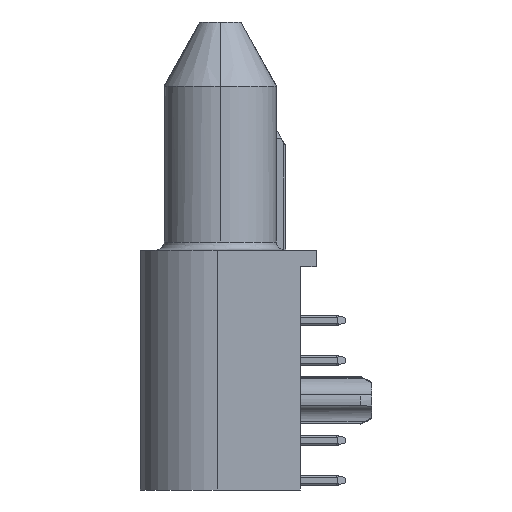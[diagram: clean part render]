
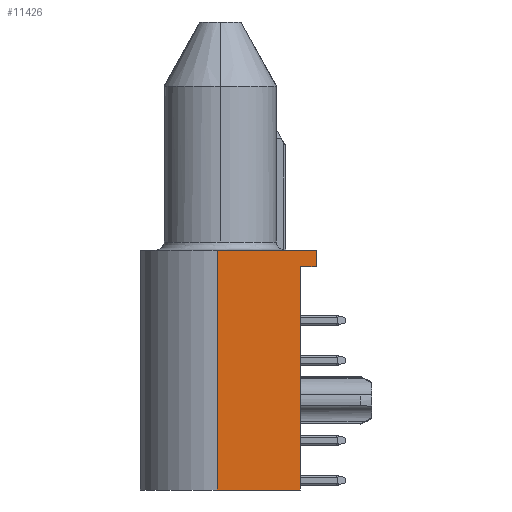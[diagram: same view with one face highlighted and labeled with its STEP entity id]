
A CAD part, left-side view. The second image highlights one B-rep face of the part: STEP entity #11426.
In plain terms, the highlighted planar face has unit normal (-1, 0, 0).
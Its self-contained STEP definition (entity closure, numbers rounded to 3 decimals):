
#4013 = FACE_OUTER_BOUND ( 'NONE', #11719, .T. ) ;
#4042 = PLANE ( 'NONE',  #4114 ) ;
#4114 = AXIS2_PLACEMENT_3D ( 'NONE', #17692, #17693, #17694 ) ;
#7624 = ORIENTED_EDGE ( 'NONE', *, *, #45672, .T. ) ;
#7626 = ORIENTED_EDGE ( 'NONE', *, *, #45905, .T. ) ;
#7628 = ORIENTED_EDGE ( 'NONE', *, *, #45903, .T. ) ;
#7630 = ORIENTED_EDGE ( 'NONE', *, *, #45896, .T. ) ;
#7631 = ORIENTED_EDGE ( 'NONE', *, *, #45658, .T. ) ;
#7633 = ORIENTED_EDGE ( 'NONE', *, *, #45900, .F. ) ;
#8007 = VERTEX_POINT ( 'NONE', #33343 ) ;
#8009 = VERTEX_POINT ( 'NONE', #33340 ) ;
#8014 = VERTEX_POINT ( 'NONE', #33330 ) ;
#8017 = VERTEX_POINT ( 'NONE', #33325 ) ;
#8169 = VERTEX_POINT ( 'NONE', #33022 ) ;
#8170 = VERTEX_POINT ( 'NONE', #33019 ) ;
#11426 = ADVANCED_FACE ( 'NONE', ( #4013 ), #4042, .T. ) ;
#11719 = EDGE_LOOP ( 'NONE', ( #7633, #7631, #7630, #7628, #7626, #7624 ) ) ;
#17692 = CARTESIAN_POINT ( 'NONE',  ( -21.346, 0.262, -28.602 ) ) ;
#17693 = DIRECTION ( 'NONE',  ( -1., 0., 0. ) ) ;
#17694 = DIRECTION ( 'NONE',  ( 0., 0., 1. ) ) ;
#33019 = CARTESIAN_POINT ( 'NONE',  ( -21.346, -9.738, -2. ) ) ;
#33022 = CARTESIAN_POINT ( 'NONE',  ( -21.346, -9.738, -15.95 ) ) ;
#33325 = CARTESIAN_POINT ( 'NONE',  ( -21.346, -10.738, -2. ) ) ;
#33330 = CARTESIAN_POINT ( 'NONE',  ( -21.346, -4.538, -0.95 ) ) ;
#33340 = CARTESIAN_POINT ( 'NONE',  ( -21.346, -4.538, -15.95 ) ) ;
#33343 = CARTESIAN_POINT ( 'NONE',  ( -21.346, -10.738, -0.95 ) ) ;
#35317 = VECTOR ( 'NONE', #36516, 1000. ) ;
#35324 = VECTOR ( 'NONE', #36529, 1000. ) ;
#35449 = VECTOR ( 'NONE', #36775, 1000. ) ;
#35453 = VECTOR ( 'NONE', #36784, 1000. ) ;
#35455 = VECTOR ( 'NONE', #36778, 1000. ) ;
#35457 = VECTOR ( 'NONE', #36781, 1000. ) ;
#36510 = CARTESIAN_POINT ( 'NONE',  ( -21.346, -4.538, -28.602 ) ) ;
#36512 = LINE ( 'NONE', #36510, #35317 ) ;
#36516 = DIRECTION ( 'NONE',  ( 0., 0., -1. ) ) ;
#36522 = LINE ( 'NONE', #36527, #35324 ) ;
#36527 = CARTESIAN_POINT ( 'NONE',  ( -21.346, -10.738, -28.602 ) ) ;
#36529 = DIRECTION ( 'NONE',  ( 0., 0., 1. ) ) ;
#36767 = CARTESIAN_POINT ( 'NONE',  ( -21.346, 0.262, -15.95 ) ) ;
#36768 = LINE ( 'NONE', #36767, #35449 ) ;
#36771 = CARTESIAN_POINT ( 'NONE',  ( -21.346, -9.738, -0.95 ) ) ;
#36773 = LINE ( 'NONE', #36771, #35455 ) ;
#36774 = LINE ( 'NONE', #36779, #35457 ) ;
#36775 = DIRECTION ( 'NONE',  ( 0., -1., 0. ) ) ;
#36776 = LINE ( 'NONE', #36782, #35453 ) ;
#36778 = DIRECTION ( 'NONE',  ( 0., -1., 0. ) ) ;
#36779 = CARTESIAN_POINT ( 'NONE',  ( -21.346, -9.738, -28.602 ) ) ;
#36781 = DIRECTION ( 'NONE',  ( 0., 0., 1. ) ) ;
#36782 = CARTESIAN_POINT ( 'NONE',  ( -21.346, -10.738, -2. ) ) ;
#36784 = DIRECTION ( 'NONE',  ( 0., -1., 0. ) ) ;
#45658 = EDGE_CURVE ( 'NONE', #8014, #8009, #36512, .T. ) ;
#45672 = EDGE_CURVE ( 'NONE', #8017, #8007, #36522, .T. ) ;
#45896 = EDGE_CURVE ( 'NONE', #8009, #8169, #36768, .T. ) ;
#45900 = EDGE_CURVE ( 'NONE', #8014, #8007, #36773, .T. ) ;
#45903 = EDGE_CURVE ( 'NONE', #8169, #8170, #36774, .T. ) ;
#45905 = EDGE_CURVE ( 'NONE', #8170, #8017, #36776, .T. ) ;
